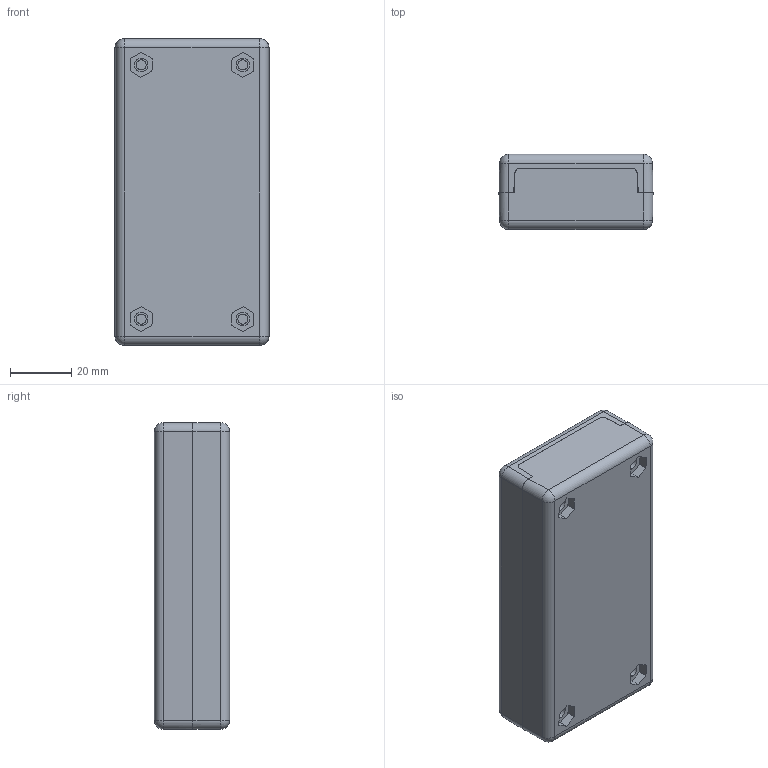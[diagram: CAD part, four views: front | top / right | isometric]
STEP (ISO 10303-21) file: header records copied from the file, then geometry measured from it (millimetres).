
FILE_DESCRIPTION (( 'STEP AP214' ), '1' );
FILE_NAME ('10066 Assembly.STEP', '2020-11-05T21:46:55', ( 'Rudy' ), ( '' ), 'SwSTEP 2.0', 'SolidWorks 2016', '' );
FILE_SCHEMA (( 'AUTOMOTIVE_DESIGN' ));
Length unit declared in the file: millimetre
Products named in the file (5): 10066 Bottom; 10066 Assembly; pan cross head_am_B18.6.7M - M3 x 0.5 x 4 Type I Cross Recessed PHMS --4N; 10066 PCB; 10066 Top
Assembly tree (7 placements, depth 2):
  10066 Assembly
    10066 Bottom
    10066 Top
    10066 PCB
    pan cross head_am_B18.6.7M - M3 x 0.5 x 4 Type I Cross Recessed PHMS --4N  x4
Bounding box: 50.42 x 24.6 x 100.4 mm (x, y, z)
Volume: 55778.4 mm3; surface area: 44969.2 mm2
Topology: 7 solids, 7 shells, 496 faces, 1172 edges, 712 vertices
Faces by surface type: plane 284, cylinder 144, bspline 32, sphere 20, cone 8, torus 8
Entity records: 12576 total; most frequent: CARTESIAN_POINT 2493, DIRECTION 2066, ORIENTED_EDGE 2020, EDGE_CURVE 1010, AXIS2_PLACEMENT_3D 695, VECTOR 676, LINE 676, VERTEX_POINT 622
